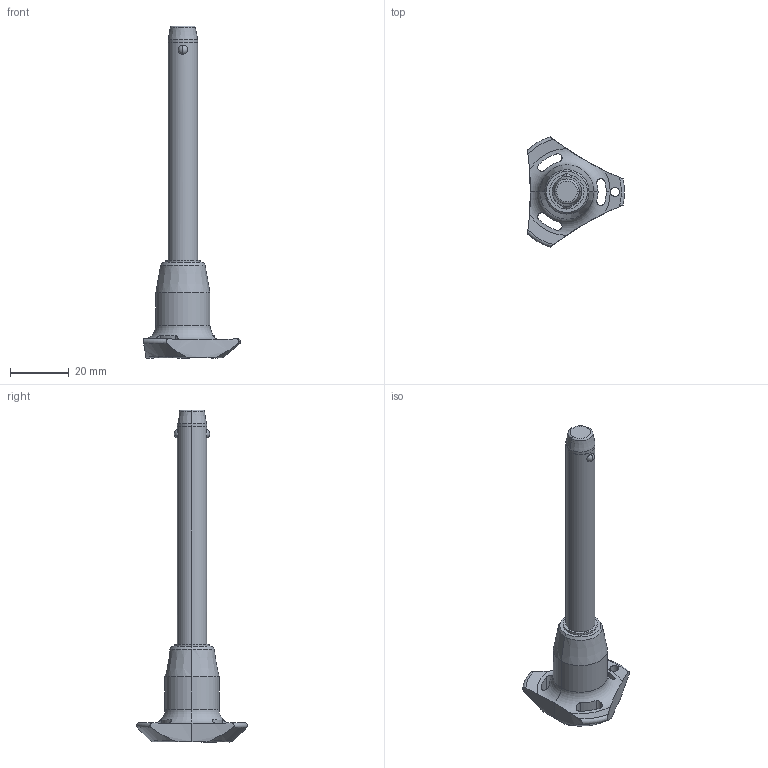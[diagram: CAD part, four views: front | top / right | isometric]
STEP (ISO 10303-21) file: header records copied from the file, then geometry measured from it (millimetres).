
FILE_DESCRIPTION (( 'STEP AP203' ), '1' );
FILE_NAME ('QR1726.M10-070-T.step', '2025-11-13T11:11:30', ( '' ), ( '' ), 'SwSTEP 2.0', 'SolidWorks 2019', '' );
FILE_SCHEMA (( 'CONFIG_CONTROL_DESIGN' ));
Length unit declared in the file: millimetre
Products named in the file (1): QR1726.M10-070-T
Bounding box: 33 x 37.51 x 112.9 mm (x, y, z)
Volume: 15904.8 mm3; surface area: 6292.5 mm2
Topology: 1 solids, 1 shells, 68 faces, 180 edges, 113 vertices
Faces by surface type: cylinder 32, cone 14, torus 11, sphere 6, plane 5
Entity records: 2823 total; most frequent: CARTESIAN_POINT 1083, ORIENTED_EDGE 360, DIRECTION 347, EDGE_CURVE 180, AXIS2_PLACEMENT_3D 154, VERTEX_POINT 113, CIRCLE 85, EDGE_LOOP 75
